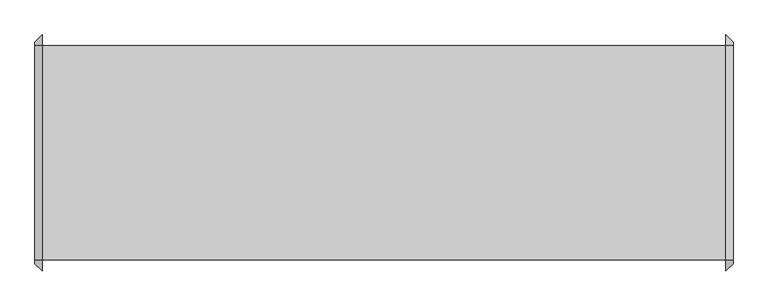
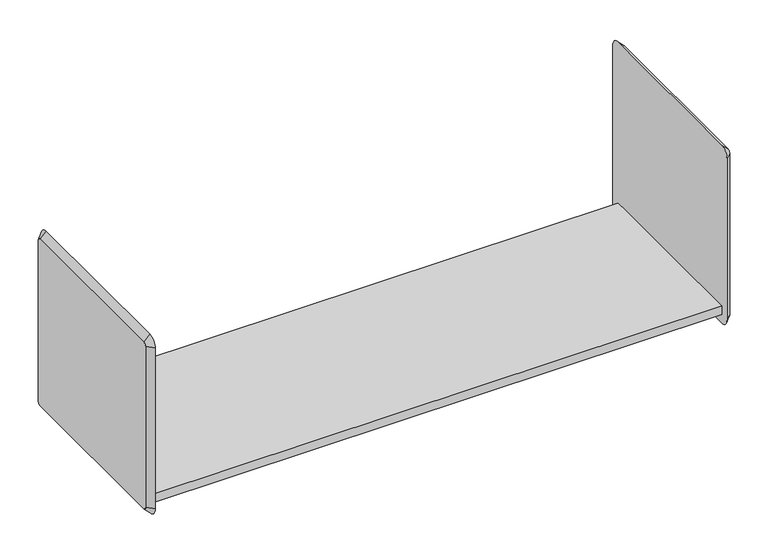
"""IFC4 building model written with IfcOpenShell, lengths in millimetres: furniture geometry, HermanMiller_ActionOffice_A3210_B-StyleShelf : 15-1/2H 16D 48W."""

from ifc_helpers import new_model, si_unit, frame, origin, place, context, project, spatial, polyline, circle_curve, outline, extrude, source, transform, mapped, element, save
from ifc_brep_helpers import plane_surface, revolved_surface, advanced_brep


def furniture_a231a7aa(model_context):
    return source(origin(), model_context, "Body", "SolidModel", [
        extrude(outline(polyline([(472.9579955, 200.025), (472.9579955, 196.85), (-720.8420045, 196.85), (-720.8420045, 200.025), (472.9579955, 200.025)])), frame((0.0, 0.0, 1686.1213713), z_axis=(0.0, 0.0, 1.0), x_axis=(1.0, 0.0, 0.0)), (0.0, 0.0, 1.0), 15.9097687),
        extrude(outline(polyline([(-174.625, 1705.20614), (200.025, 1705.20614), (200.025, 1702.03114), (-171.45, 1702.03114), (-171.45, 1686.1213713), (-174.625, 1686.1213713), (-174.625, 1705.20614)])), frame((-720.8420045, 0.0, 0.0), z_axis=(1.0, 0.0, 0.0), x_axis=(0.0, 1.0, 0.0)), (0.0, 0.0, 1.0), 1193.8),
        advanced_brep(
        [(485.6579955, 200.025, 2048.10614), (485.6579955, -174.625, 2048.10614), (485.6579955, -180.975, 2041.75614), (485.6579955, -180.975, 1686.15614), (485.6579955, -174.625, 1679.80614), (485.6579955, 200.025, 1679.80614), (485.6579955, 206.375, 1686.15614), (485.6579955, 206.375, 2041.75614), (472.9579955, 200.025, 2060.80614), (472.9579955, 219.075, 2041.75614), (472.9579955, 219.075, 1686.15614), (472.9579955, 200.025, 1667.10614), (472.9579955, -174.625, 1667.10614), (472.9579955, -193.675, 1686.15614), (472.9579955, -193.675, 2041.75614), (472.9579955, -174.625, 2060.80614)],
        [
            (0, 1),
            (1, 2, circle_curve(frame((485.6579955, -174.625, 2041.75614), z_axis=(1.0, 0.0, 0.0), x_axis=(0.0, 0.0, 1.0)), 6.35)),
            (2, 3),
            (3, 4, circle_curve(frame((485.6579955, -174.625, 1686.15614), z_axis=(1.0, 0.0, 0.0), x_axis=(0.0, -1.0, 0.0)), 6.35)),
            (4, 5),
            (5, 6, circle_curve(frame((485.6579955, 200.025, 1686.15614), z_axis=(1.0, 0.0, 0.0), x_axis=(0.0, 0.0, -1.0)), 6.35)),
            (6, 7),
            (7, 0, circle_curve(frame((485.6579955, 200.025, 2041.75614), z_axis=(1.0, 0.0, 0.0), x_axis=(0.0, 1.0, 0.0)), 6.35)),
            (8, 9, circle_curve(frame((472.9579955, 200.025, 2041.75614), z_axis=(-1.0, 0.0, 0.0), x_axis=(0.0, 1.0, 0.0)), 19.05)),
            (9, 10),
            (10, 11, circle_curve(frame((472.9579955, 200.025, 1686.15614), z_axis=(-1.0, 0.0, 0.0), x_axis=(0.0, 0.0, -1.0)), 19.05)),
            (11, 12),
            (12, 13, circle_curve(frame((472.9579955, -174.625, 1686.15614), z_axis=(-1.0, 0.0, 0.0), x_axis=(0.0, -1.0, 0.0)), 19.05)),
            (13, 14),
            (14, 15, circle_curve(frame((472.9579955, -174.625, 2041.75614), z_axis=(-1.0, 0.0, 0.0), x_axis=(0.0, 0.0, 1.0)), 19.05)),
            (15, 8),
            (15, 1),
            (0, 8),
            (14, 2),
            (13, 3),
            (12, 4),
            (11, 5),
            (10, 6),
            (9, 7),
        ],
        [
            plane_surface(frame((485.6579955, 12.7, 1863.95614), z_axis=(1.0, 0.0, 0.0), x_axis=(0.0, -1.0, 0.0))),
            plane_surface(frame((472.9579955, 12.7, 1863.95614), z_axis=(-1.0, 0.0, 0.0), x_axis=(0.0, -1.0, 0.0))),
            plane_surface(frame((472.9579955, 12.7, 2060.80614), z_axis=(0.7071067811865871, 0.0, 0.707106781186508), x_axis=(0.0, -1.0, 0.0))),
            revolved_surface(polyline([(485.6579955, -174.625, 2048.10614), (472.9579955, -174.625, 2060.80614)]), (492.0079955, -174.625, 2041.75614), (-1.0, 0.0, 0.0)),
            plane_surface(frame((472.9579955, -193.675, 1863.95614), z_axis=(0.7071067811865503, -0.7071067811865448, 0.0), x_axis=(0.0, 0.0, -1.0))),
            revolved_surface(polyline([(485.6579955, -180.97499999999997, 1686.15614), (472.9579955, -193.675, 1686.15614)]), (492.0079955, -174.625, 1686.15614), (-1.0, 0.0, 0.0)),
            plane_surface(frame((472.9579955, 12.7, 1667.10614), z_axis=(0.7071067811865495, 0.0, -0.7071067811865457), x_axis=(0.0, 1.0, 0.0))),
            revolved_surface(polyline([(485.6579955, 200.025, 1679.8061400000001), (472.9579955, 200.025, 1667.10614)]), (492.0079955, 200.025, 1686.15614), (-1.0, 0.0, 0.0)),
            plane_surface(frame((472.9579955, 219.075, 1863.95614), z_axis=(0.7071067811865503, 0.7071067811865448, 0.0), x_axis=(0.0, 0.0, 1.0))),
            revolved_surface(polyline([(485.6579955, 206.37499999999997, 2041.75614), (472.9579955, 219.075, 2041.75614)]), (492.0079955, 200.025, 2041.75614), (-1.0, 0.0, 0.0)),
        ],
        [
            (0, [[1, 2, 3, 4, 5, 6, 7, 8]]),
            (1, [[9, 10, 11, 12, 13, 14, 15, 16]]),
            (2, [[-16, 17, -1, 18]]),
            (3, [[-15, 19, -2, -17]]),
            (4, [[-14, 20, -3, -19]]),
            (5, [[-13, 21, -4, -20]]),
            (6, [[-12, 22, -5, -21]]),
            (7, [[-11, 23, -6, -22]]),
            (8, [[-10, 24, -7, -23]]),
            (9, [[-9, -18, -8, -24]]),
        ],
    ),
        advanced_brep(
        [(-733.5420045, -174.625, 2048.10614), (-733.5420045, 200.025, 2048.10614), (-733.5420045, 206.375, 2041.75614), (-733.5420045, 206.375, 1686.15614), (-733.5420045, 200.025, 1679.80614), (-733.5420045, -174.625, 1679.80614), (-733.5420045, -180.975, 1686.15614), (-733.5420045, -180.975, 2041.75614), (-720.8420045, -174.625, 2060.80614), (-720.8420045, -193.675, 2041.75614), (-720.8420045, -193.675, 1686.15614), (-720.8420045, -174.625, 1667.10614), (-720.8420045, 200.025, 1667.10614), (-720.8420045, 219.075, 1686.15614), (-720.8420045, 219.075, 2041.75614), (-720.8420045, 200.025, 2060.80614)],
        [
            (0, 1),
            (1, 2, circle_curve(frame((-733.5420045, 200.025, 2041.75614), z_axis=(-1.0, -1.881161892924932e-12, -1.8118839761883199e-12), x_axis=(-1.811886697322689e-12, 0.0, 1.0)), 6.35)),
            (2, 3),
            (3, 4, circle_curve(frame((-733.5420045, 200.025, 1686.15614), z_axis=(-1.0, 0.0, 0.0), x_axis=(0.0, 1.0, 0.0)), 6.35)),
            (4, 5),
            (5, 6, circle_curve(frame((-733.5420045, -174.625, 1686.15614), z_axis=(-1.0, 0.0, 0.0), x_axis=(0.0, 0.0, -1.0)), 6.35)),
            (6, 7),
            (7, 0, circle_curve(frame((-733.5420045, -174.625, 2041.75614), z_axis=(-1.0, -1.875832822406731e-12, 1.9610979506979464e-12), x_axis=(1.875789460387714e-12, -1.0, 0.0)), 6.35)),
            (8, 9, circle_curve(frame((-720.8420045, -174.625, 2041.75614), z_axis=(1.0, 1.875832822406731e-12, -1.9610979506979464e-12), x_axis=(1.875789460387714e-12, -1.0, 0.0)), 19.05)),
            (9, 10),
            (10, 11, circle_curve(frame((-720.8420045, -174.625, 1686.15614), z_axis=(1.0, 0.0, 0.0), x_axis=(0.0, 0.0, -1.0)), 19.05)),
            (11, 12),
            (12, 13, circle_curve(frame((-720.8420045, 200.025, 1686.15614), z_axis=(1.0, 0.0, 0.0), x_axis=(0.0, 1.0, 0.0)), 19.05)),
            (13, 14),
            (14, 15, circle_curve(frame((-720.8420045, 200.025, 2041.75614), z_axis=(1.0, 1.881161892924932e-12, 1.8118839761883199e-12), x_axis=(-1.811886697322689e-12, 0.0, 1.0)), 19.05)),
            (15, 8),
            (15, 1),
            (0, 8),
            (14, 2),
            (13, 3),
            (12, 4),
            (11, 5),
            (10, 6),
            (9, 7),
        ],
        [
            plane_surface(frame((-733.5420045, 12.7, 1863.95614), z_axis=(-1.0, 0.0, 0.0), x_axis=(0.0, -1.0, 0.0))),
            plane_surface(frame((-720.8420045, 12.7, 1863.95614), z_axis=(1.0, 0.0, 0.0), x_axis=(0.0, -1.0, 0.0))),
            plane_surface(frame((-720.8420045, 12.7, 2060.80614), z_axis=(-0.7071067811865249, 0.0, 0.7071067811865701), x_axis=(0.0, 1.0, 0.0))),
            revolved_surface(polyline([(-733.5420045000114, 200.025, 2048.1061399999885), (-720.8420044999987, 200.025, 2060.8061400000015)]), (-739.8920045, 200.025, 2041.75614), (1.0, 1.881161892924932e-12, 1.8118839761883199e-12)),
            plane_surface(frame((-720.8420045, 219.075, 1863.95614), z_axis=(-0.7071067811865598, 0.7071067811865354, 0.0), x_axis=(0.0, 0.0, -1.0))),
            revolved_surface(polyline([(-733.5420045, 206.37500000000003, 1686.15614), (-720.8420045, 219.075, 1686.15614)]), (-739.8920045, 200.025, 1686.15614), (1.0, 0.0, 0.0)),
            plane_surface(frame((-720.8420045, 12.7, 1667.10614), z_axis=(-0.707106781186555, 0.0, -0.70710678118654), x_axis=(0.0, -1.0, 0.0))),
            revolved_surface(polyline([(-733.5420045, -174.625, 1679.8061400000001), (-720.8420045, -174.625, 1667.10614)]), (-739.8920045, -174.625, 1686.15614), (1.0, 0.0, 0.0)),
            plane_surface(frame((-720.8420045, -193.675, 1863.95614), z_axis=(-0.7071067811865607, -0.7071067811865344, 0.0), x_axis=(0.0, 0.0, 1.0))),
            revolved_surface(polyline([(-733.5420045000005, -180.9749999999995, 2041.75614), (-720.8420044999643, -193.67500000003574, 2041.75614)]), (-739.8920045, -174.625, 2041.75614), (1.0, 1.875832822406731e-12, -1.9610979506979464e-12)),
        ],
        [
            (0, [[1, 2, 3, 4, 5, 6, 7, 8]]),
            (1, [[9, 10, 11, 12, 13, 14, 15, 16]]),
            (2, [[-16, 17, -1, 18]]),
            (3, [[-15, 19, -2, -17]]),
            (4, [[-14, 20, -3, -19]]),
            (5, [[-13, 21, -4, -20]]),
            (6, [[-12, 22, -5, -21]]),
            (7, [[-11, 23, -6, -22]]),
            (8, [[-10, 24, -7, -23]]),
            (9, [[-9, -18, -8, -24]]),
        ],
    ),
    ])


if __name__ == "__main__":
    model = new_model("IFC4")
    model_context = context("Model", 3, world=origin())
    ifc_project = project(units=[si_unit("LENGTHUNIT", "METRE", prefix="MILLI")], contexts=[model_context])
    site = spatial("IfcSite", under=ifc_project)
    building = spatial("IfcBuilding", under=site)
    placement = place(None, origin())
    furniture_shape = furniture_a231a7aa(model_context)
    element("IfcFurniture", 1, ObjectType="HermanMiller_ActionOffice_A3210_B-StyleShelf : 15-1/2H 16D 48W", at=placement, inside=building, context=model_context, shape_type="MappedRepresentation", body=[
        mapped(furniture_shape, transform((0.0, 0.0, 0.0), x_axis=(1.0, 0.0, 0.0), y_axis=(0.0, 1.0, 0.0), z_axis=(0.0, 0.0, 1.0))),
    ])
    save(model, "model.ifc")
